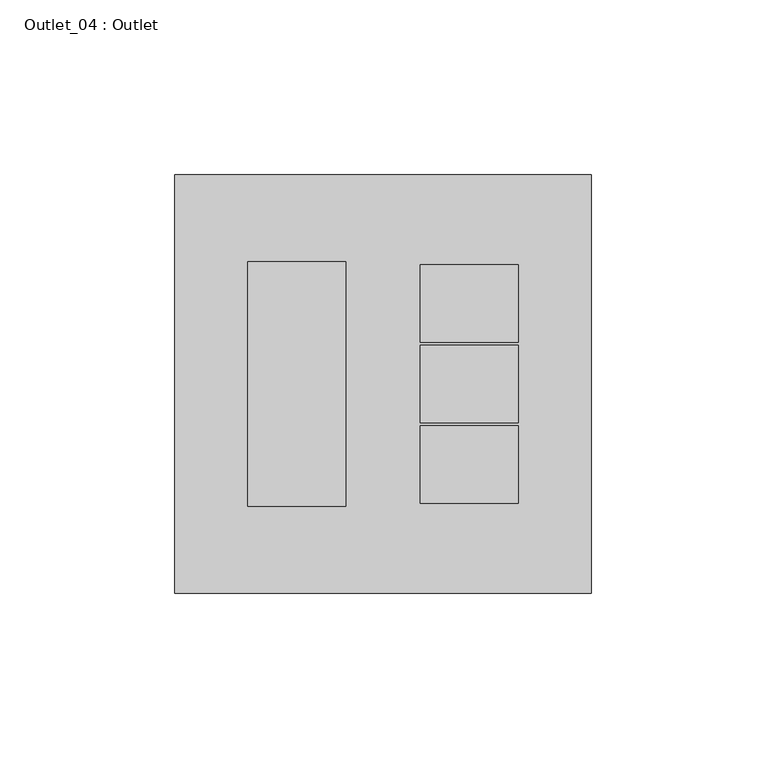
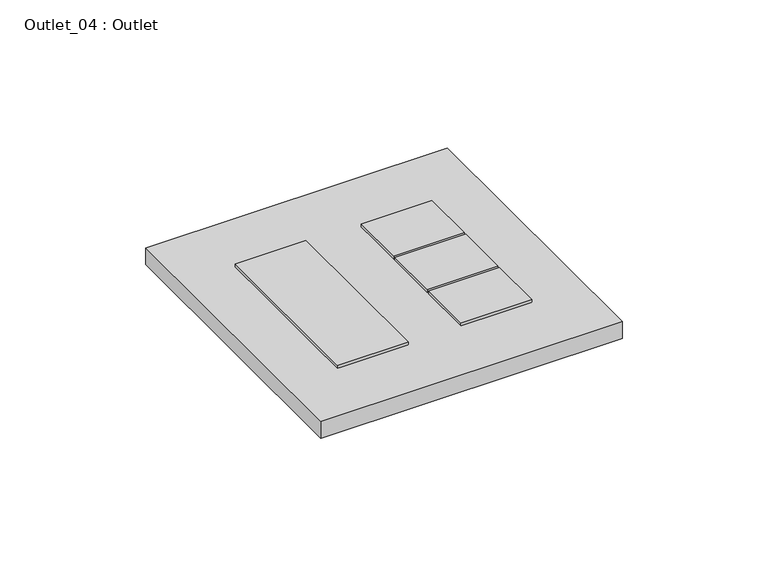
"""IFC4 building model written with IfcOpenShell, lengths in millimetres: switching device geometry, Outlet_04 : Outlet."""

from ifc_helpers import new_model, si_unit, frame, origin, origin_with_axes, place, context, project, spatial, polyline, outline, extrude, source, transform, mapped, element, save


def outlet_04_outlet_3ae403e4(model_context):
    return source(origin(), model_context, "Body", "SweptSolid", [
        extrude(outline(polyline([(38.6999979, -34.1498518), (10.6999979, -34.1498518), (10.6999979, -11.9997692), (38.6999979, -11.9997692), (38.6999979, -34.1498518)])), frame((0.0, 0.0, 5.6999725), z_axis=(0.0, 0.0, 1.0), x_axis=(1.0, 0.0, 0.0)), (0.0, 0.0, 1.0), 2.2999722),
        extrude(outline(polyline([(10.6999979, 34.1502333), (38.6999979, 34.1502333), (38.6999979, 12.0001507), (10.6999979, 12.0001507), (10.6999979, 34.1502333)])), frame((0.0, 0.0, 5.6999725), z_axis=(0.0, 0.0, 1.0), x_axis=(1.0, 0.0, 0.0)), (0.0, 0.0, 1.0), 2.2999722),
        extrude(outline(polyline([(38.6999979, 11.1002302), (38.6999979, -11.0498524), (10.6999979, -11.0498524), (10.6999979, 11.1002302), (38.6999979, 11.1002302)])), frame((0.0, 0.0, 5.6999725), z_axis=(0.0, 0.0, 1.0), x_axis=(1.0, 0.0, 0.0)), (0.0, 0.0, 1.0), 2.2999722),
        extrude(outline(polyline([(-38.6999979, 35.0), (-10.6999979, 35.0), (-10.6999979, -35.0), (-38.6999979, -35.0), (-38.6999979, 35.0)])), frame((0.0, 0.0, 5.6999725), z_axis=(0.0, 0.0, 1.0), x_axis=(1.0, 0.0, 0.0)), (0.0, 0.0, 1.0), 2.2999722),
        extrude(outline(polyline([(59.6999979, 60.0), (59.6999979, -60.0), (-59.6999979, -60.0), (-59.6999979, 60.0), (59.6999979, 60.0)])), origin_with_axes(), (0.0, 0.0, 1.0), 6.9999463),
    ])


if __name__ == "__main__":
    model = new_model("IFC4")
    model_context = context("Model", 3, world=origin())
    ifc_project = project(units=[si_unit("LENGTHUNIT", "METRE", prefix="MILLI")], contexts=[model_context])
    site = spatial("IfcSite", under=ifc_project)
    building = spatial("IfcBuilding", under=site)
    placement = place(None, origin())
    outlet_04_outlet_shape = outlet_04_outlet_3ae403e4(model_context)
    element("IfcSwitchingDevice", 1, ObjectType="Outlet_04 : Outlet", at=placement, inside=building, context=model_context, shape_type="MappedRepresentation", body=[
        mapped(outlet_04_outlet_shape, transform((0.0, 0.0, 0.0), x_axis=(1.0, 0.0, 0.0), y_axis=(0.0, 1.0, 0.0), z_axis=(0.0, 0.0, 1.0))),
    ])
    save(model, "model.ifc")
